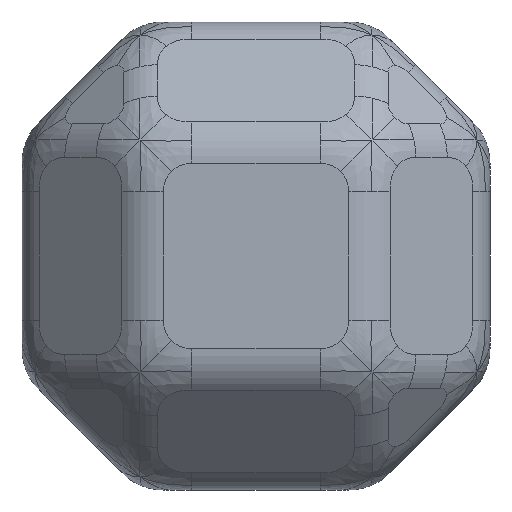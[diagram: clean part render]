
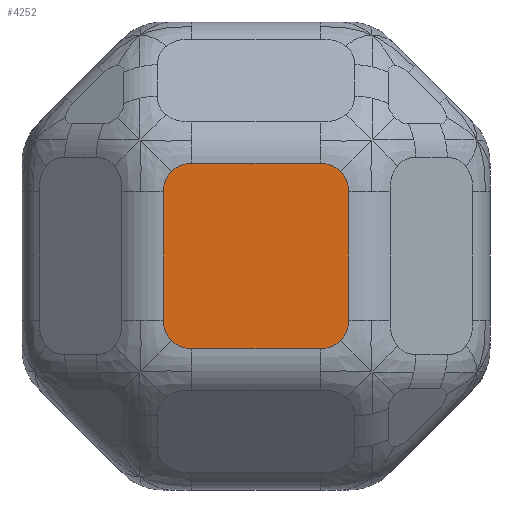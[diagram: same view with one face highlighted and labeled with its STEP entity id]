
A CAD part, left-side view. The second image highlights one B-rep face of the part: STEP entity #4252.
In plain terms, the highlighted planar face has unit normal (-1, 0, 0).
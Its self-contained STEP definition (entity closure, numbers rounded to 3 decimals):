
#22=PLANE('',#4616);
#46=LINE('',#24372,#142);
#52=LINE('',#24822,#148);
#110=LINE('',#25602,#206);
#128=LINE('',#25629,#224);
#142=VECTOR('',#5152,10.);
#148=VECTOR('',#5192,10.);
#206=VECTOR('',#5352,10.);
#224=VECTOR('',#5388,10.);
#528=FACE_OUTER_BOUND('',#794,.T.);
#794=EDGE_LOOP('',(#3600,#3601,#3602,#3603,#3604,#3605,#3606,#3607,#3608,
#3609,#3610,#3611));
#925=CIRCLE('',#4385,2.424);
#928=CIRCLE('',#4388,2.424);
#985=CIRCLE('',#4445,2.424);
#988=CIRCLE('',#4448,2.424);
#995=CIRCLE('',#4455,2.424);
#998=CIRCLE('',#4458,2.424);
#1035=CIRCLE('',#4495,2.424);
#1038=CIRCLE('',#4498,2.424);
#1571=VERTEX_POINT('',#14292);
#1572=VERTEX_POINT('',#14299);
#1574=VERTEX_POINT('',#14373);
#1667=VERTEX_POINT('',#18924);
#1668=VERTEX_POINT('',#18931);
#1670=VERTEX_POINT('',#19005);
#1683=VERTEX_POINT('',#19696);
#1684=VERTEX_POINT('',#19703);
#1686=VERTEX_POINT('',#19777);
#1747=VERTEX_POINT('',#22784);
#1748=VERTEX_POINT('',#22791);
#1750=VERTEX_POINT('',#22865);
#2047=EDGE_CURVE('',#1571,#1572,#925,.T.);
#2051=EDGE_CURVE('',#1574,#1571,#928,.T.);
#2179=EDGE_CURVE('',#1667,#1668,#985,.T.);
#2183=EDGE_CURVE('',#1670,#1667,#988,.T.);
#2201=EDGE_CURVE('',#1683,#1684,#995,.T.);
#2205=EDGE_CURVE('',#1686,#1683,#998,.T.);
#2289=EDGE_CURVE('',#1747,#1748,#1035,.T.);
#2293=EDGE_CURVE('',#1750,#1747,#1038,.T.);
#2342=EDGE_CURVE('',#1748,#1686,#46,.T.);
#2362=EDGE_CURVE('',#1572,#1670,#52,.T.);
#2442=EDGE_CURVE('',#1684,#1574,#110,.T.);
#2460=EDGE_CURVE('',#1668,#1750,#128,.T.);
#3600=ORIENTED_EDGE('',*,*,#2051,.F.);
#3601=ORIENTED_EDGE('',*,*,#2442,.F.);
#3602=ORIENTED_EDGE('',*,*,#2201,.F.);
#3603=ORIENTED_EDGE('',*,*,#2205,.F.);
#3604=ORIENTED_EDGE('',*,*,#2342,.F.);
#3605=ORIENTED_EDGE('',*,*,#2289,.F.);
#3606=ORIENTED_EDGE('',*,*,#2293,.F.);
#3607=ORIENTED_EDGE('',*,*,#2460,.F.);
#3608=ORIENTED_EDGE('',*,*,#2179,.F.);
#3609=ORIENTED_EDGE('',*,*,#2183,.F.);
#3610=ORIENTED_EDGE('',*,*,#2362,.F.);
#3611=ORIENTED_EDGE('',*,*,#2047,.F.);
#4252=ADVANCED_FACE('',(#528),#22,.F.);
#4385=AXIS2_PLACEMENT_3D('',#14300,#4861,#4862);
#4388=AXIS2_PLACEMENT_3D('',#14375,#4867,#4868);
#4445=AXIS2_PLACEMENT_3D('',#18932,#4981,#4982);
#4448=AXIS2_PLACEMENT_3D('',#19007,#4987,#4988);
#4455=AXIS2_PLACEMENT_3D('',#19704,#5001,#5002);
#4458=AXIS2_PLACEMENT_3D('',#19779,#5007,#5008);
#4495=AXIS2_PLACEMENT_3D('',#22792,#5081,#5082);
#4498=AXIS2_PLACEMENT_3D('',#22867,#5087,#5088);
#4616=AXIS2_PLACEMENT_3D('',#25649,#5419,#5420);
#4861=DIRECTION('center_axis',(1.,0.,0.));
#4862=DIRECTION('ref_axis',(0.,0.707,0.707));
#4867=DIRECTION('center_axis',(1.,0.,0.));
#4868=DIRECTION('ref_axis',(0.,0.707,0.707));
#4981=DIRECTION('center_axis',(1.,0.,0.));
#4982=DIRECTION('ref_axis',(0.,-0.707,0.707));
#4987=DIRECTION('center_axis',(1.,0.,0.));
#4988=DIRECTION('ref_axis',(0.,-0.707,0.707));
#5001=DIRECTION('center_axis',(1.,0.,0.));
#5002=DIRECTION('ref_axis',(0.,0.707,-0.707));
#5007=DIRECTION('center_axis',(1.,0.,0.));
#5008=DIRECTION('ref_axis',(0.,0.707,-0.707));
#5081=DIRECTION('center_axis',(1.,0.,0.));
#5082=DIRECTION('ref_axis',(0.,-0.707,-0.707));
#5087=DIRECTION('center_axis',(1.,0.,0.));
#5088=DIRECTION('ref_axis',(0.,-0.707,-0.707));
#5152=DIRECTION('',(0.,1.,0.));
#5192=DIRECTION('',(0.,-1.,0.));
#5352=DIRECTION('',(0.,0.,1.));
#5388=DIRECTION('',(0.,0.,-1.));
#5419=DIRECTION('center_axis',(1.,0.,0.));
#5420=DIRECTION('ref_axis',(0.,1.,0.));
#14292=CARTESIAN_POINT('',(0.,27.219,27.219));
#14299=CARTESIAN_POINT('',(0.,25.505,27.929));
#14300=CARTESIAN_POINT('Origin',(0.,25.505,25.505));
#14373=CARTESIAN_POINT('',(0.,27.929,25.505));
#14375=CARTESIAN_POINT('Origin',(0.,25.505,25.505));
#18924=CARTESIAN_POINT('',(0.,12.781,27.219));
#18931=CARTESIAN_POINT('',(0.,12.071,25.505));
#18932=CARTESIAN_POINT('Origin',(0.,14.495,25.505));
#19005=CARTESIAN_POINT('',(0.,14.495,27.929));
#19007=CARTESIAN_POINT('Origin',(0.,14.495,25.505));
#19696=CARTESIAN_POINT('',(0.,27.219,12.781));
#19703=CARTESIAN_POINT('',(0.,27.929,14.495));
#19704=CARTESIAN_POINT('Origin',(0.,25.505,14.495));
#19777=CARTESIAN_POINT('',(0.,25.505,12.071));
#19779=CARTESIAN_POINT('Origin',(0.,25.505,14.495));
#22784=CARTESIAN_POINT('',(0.,12.781,12.781));
#22791=CARTESIAN_POINT('',(0.,14.495,12.071));
#22792=CARTESIAN_POINT('Origin',(0.,14.495,14.495));
#22865=CARTESIAN_POINT('',(0.,12.071,14.495));
#22867=CARTESIAN_POINT('Origin',(0.,14.495,14.495));
#24372=CARTESIAN_POINT('',(0.,20.,12.071));
#24822=CARTESIAN_POINT('',(0.,20.,27.929));
#25602=CARTESIAN_POINT('',(0.,27.929,20.));
#25629=CARTESIAN_POINT('',(0.,12.071,20.));
#25649=CARTESIAN_POINT('Origin',(0.,20.,20.));
